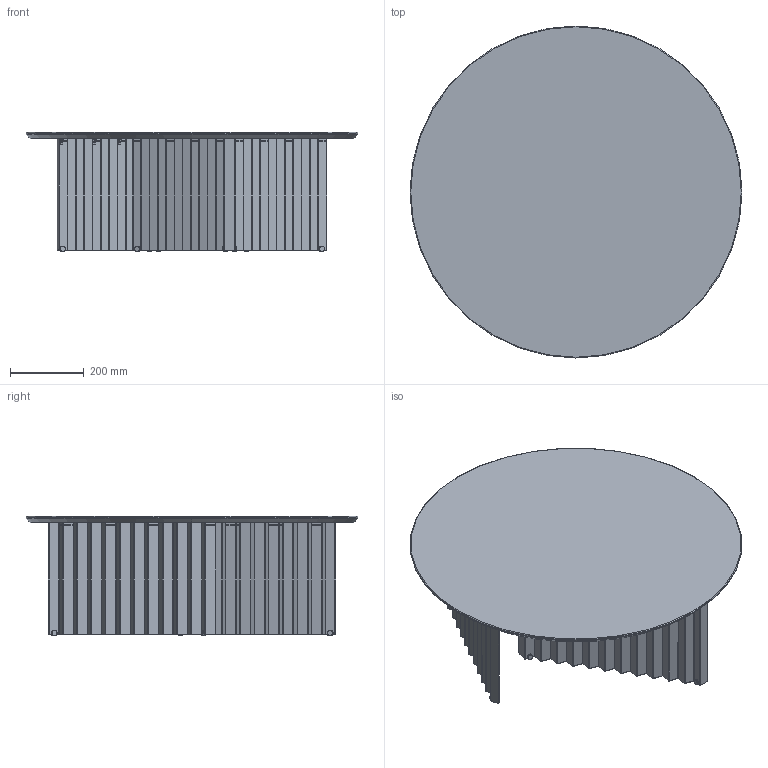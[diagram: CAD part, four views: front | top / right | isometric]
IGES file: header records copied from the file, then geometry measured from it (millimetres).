
Start section: START RECORD GO HERE.
Global section: file name: Plec_Round_large_marble.igs; native system: DASSAULT SYSTEMES CATIA Version 5-6 Release 2017 - www.3ds.com; preprocessor: V5-6R2017_5.27.0.0.10-19-2016.20.00; author: ingenieria; organization: RAFA-PC; date: 20210305.134721; units: millimetre
Bounding box: 900 x 900 x 323.5 mm (x, y, z)
Surface area: 5351257.5 mm2 (no closed solid volume)
Topology: 0 solids, 0 shells, 1640 faces, 6892 edges, 6892 vertices
Faces by surface type: plane 1006, revolution 634
